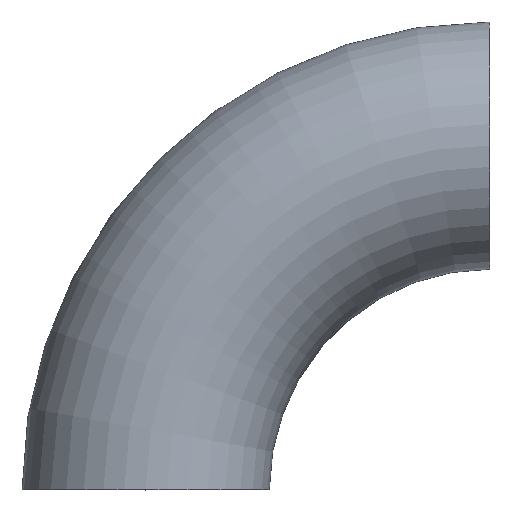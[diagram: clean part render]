
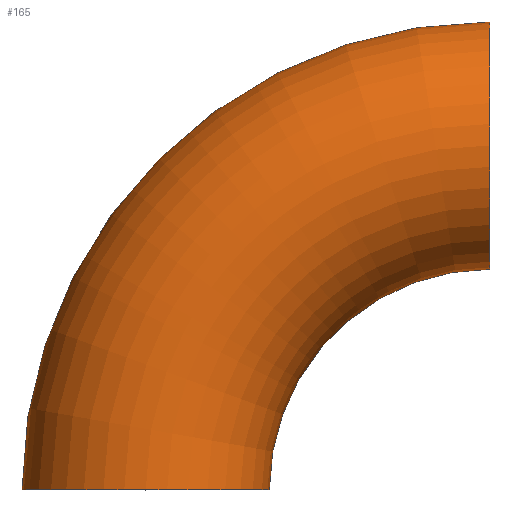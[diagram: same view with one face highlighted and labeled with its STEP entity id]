
A CAD part, top view. The second image highlights one B-rep face of the part: STEP entity #165.
In plain terms, the highlighted toroidal (fillet/blend) face has major radius 305 mm and minor radius 109.55 mm.
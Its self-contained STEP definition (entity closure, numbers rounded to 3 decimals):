
#2 = AXIS2_PLACEMENT_3D ( 'NONE', #230, #163, #207 ) ;
#15 = ORIENTED_EDGE ( 'NONE', *, *, #99, .T. ) ;
#21 = CIRCLE ( 'NONE', #27, 414.55 ) ;
#25 = CARTESIAN_POINT ( 'NONE',  ( 109.55, 0., 0. ) ) ;
#26 = DIRECTION ( 'NONE',  ( 0., 1., 0. ) ) ;
#27 = AXIS2_PLACEMENT_3D ( 'NONE', #71, #141, #225 ) ;
#38 = FACE_OUTER_BOUND ( 'NONE', #222, .T. ) ;
#40 = TOROIDAL_SURFACE ( 'NONE', #200, 305., 109.55 ) ;
#58 = ORIENTED_EDGE ( 'NONE', *, *, #76, .T. ) ;
#66 = DIRECTION ( 'NONE',  ( 1., 0., 0. ) ) ;
#67 = DIRECTION ( 'NONE',  ( 1., 0., 0. ) ) ;
#69 = CARTESIAN_POINT ( 'NONE',  ( 305., 195.45, 0. ) ) ;
#70 = AXIS2_PLACEMENT_3D ( 'NONE', #140, #26, #128 ) ;
#71 = CARTESIAN_POINT ( 'NONE',  ( 305., 0., 0. ) ) ;
#76 = EDGE_CURVE ( 'NONE', #100, #160, #190, .T. ) ;
#79 = CIRCLE ( 'NONE', #144, 109.55 ) ;
#91 = CARTESIAN_POINT ( 'NONE',  ( 305., 305., 0. ) ) ;
#99 = EDGE_CURVE ( 'NONE', #187, #100, #21, .T. ) ;
#100 = VERTEX_POINT ( 'NONE', #206 ) ;
#118 = CIRCLE ( 'NONE', #2, 195.45 ) ;
#120 = EDGE_CURVE ( 'NONE', #187, #182, #79, .T. ) ;
#128 = DIRECTION ( 'NONE',  ( 0., 0., 1. ) ) ;
#140 = CARTESIAN_POINT ( 'NONE',  ( 0., 0., 0. ) ) ;
#141 = DIRECTION ( 'NONE',  ( 0., 0., 1. ) ) ;
#144 = AXIS2_PLACEMENT_3D ( 'NONE', #91, #66, #201 ) ;
#160 = VERTEX_POINT ( 'NONE', #25 ) ;
#163 = DIRECTION ( 'NONE',  ( 0., 0., 1. ) ) ;
#165 = ADVANCED_FACE ( 'NONE', ( #38 ), #40, .T. ) ;
#170 = ORIENTED_EDGE ( 'NONE', *, *, #191, .F. ) ;
#179 = DIRECTION ( 'NONE',  ( 0., 0., 1. ) ) ;
#182 = VERTEX_POINT ( 'NONE', #69 ) ;
#187 = VERTEX_POINT ( 'NONE', #203 ) ;
#190 = CIRCLE ( 'NONE', #70, 109.55 ) ;
#191 = EDGE_CURVE ( 'NONE', #182, #160, #118, .T. ) ;
#200 = AXIS2_PLACEMENT_3D ( 'NONE', #228, #179, #67 ) ;
#201 = DIRECTION ( 'NONE',  ( 0., 0., 1. ) ) ;
#203 = CARTESIAN_POINT ( 'NONE',  ( 305., 414.55, 0. ) ) ;
#206 = CARTESIAN_POINT ( 'NONE',  ( -109.55, 0., 0. ) ) ;
#207 = DIRECTION ( 'NONE',  ( 1., 0., 0. ) ) ;
#222 = EDGE_LOOP ( 'NONE', ( #234, #15, #58, #170 ) ) ;
#225 = DIRECTION ( 'NONE',  ( 1., 0., 0. ) ) ;
#228 = CARTESIAN_POINT ( 'NONE',  ( 305., 0., 0. ) ) ;
#230 = CARTESIAN_POINT ( 'NONE',  ( 305., 0., 0. ) ) ;
#234 = ORIENTED_EDGE ( 'NONE', *, *, #120, .F. ) ;
